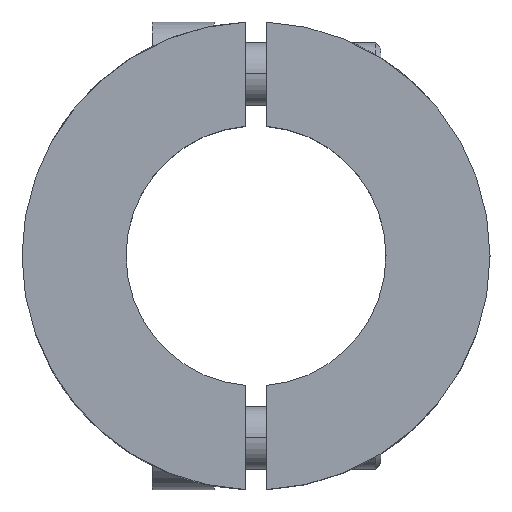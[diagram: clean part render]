
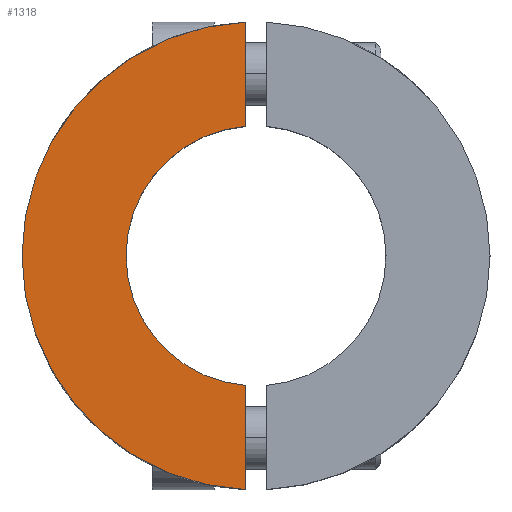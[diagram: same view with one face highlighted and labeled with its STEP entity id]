
A CAD part, top view. The second image highlights one B-rep face of the part: STEP entity #1318.
In plain terms, the highlighted planar face has unit normal (0, 0, 1).
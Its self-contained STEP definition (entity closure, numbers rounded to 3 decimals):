
#8 = CARTESIAN_POINT ( 'NONE',  ( -1., 12.46, 7.5 ) ) ;
#38 = DIRECTION ( 'NONE',  ( -0.044, 0.999, 0. ) ) ;
#232 = ORIENTED_EDGE ( 'NONE', *, *, #1712, .T. ) ;
#233 = CARTESIAN_POINT ( 'NONE',  ( 0., 0., 7.5 ) ) ;
#276 = DIRECTION ( 'NONE',  ( 0., 0., 1. ) ) ;
#296 = DIRECTION ( 'NONE',  ( -0.044, 0.999, 0. ) ) ;
#344 = ORIENTED_EDGE ( 'NONE', *, *, #2520, .T. ) ;
#592 = DIRECTION ( 'NONE',  ( 0., 1., 0. ) ) ;
#645 = VERTEX_POINT ( 'NONE', #2669 ) ;
#711 = AXIS2_PLACEMENT_3D ( 'NONE', #1453, #739, #296 ) ;
#739 = DIRECTION ( 'NONE',  ( 0., 0., 1. ) ) ;
#782 = CIRCLE ( 'NONE', #711, 22.5 ) ;
#819 = EDGE_CURVE ( 'NONE', #980, #1413, #1914, .T. ) ;
#858 = ORIENTED_EDGE ( 'NONE', *, *, #2576, .T. ) ;
#980 = VERTEX_POINT ( 'NONE', #1174 ) ;
#1023 = CARTESIAN_POINT ( 'NONE',  ( -1., 22.478, 7.5 ) ) ;
#1041 = VECTOR ( 'NONE', #2333, 1000. ) ;
#1174 = CARTESIAN_POINT ( 'NONE',  ( -1., 12.46, 7.5 ) ) ;
#1226 = ORIENTED_EDGE ( 'NONE', *, *, #1815, .T. ) ;
#1235 = DIRECTION ( 'NONE',  ( 0., 0., -1. ) ) ;
#1318 = ADVANCED_FACE ( 'NONE', ( #1376 ), #1873, .T. ) ;
#1376 = FACE_OUTER_BOUND ( 'NONE', #1628, .T. ) ;
#1413 = VERTEX_POINT ( 'NONE', #1023 ) ;
#1431 = VECTOR ( 'NONE', #592, 1000. ) ;
#1437 = CARTESIAN_POINT ( 'NONE',  ( 0., 0., 7.5 ) ) ;
#1453 = CARTESIAN_POINT ( 'NONE',  ( 0., 0., 7.5 ) ) ;
#1476 = CARTESIAN_POINT ( 'NONE',  ( 0., 0., 7.5 ) ) ;
#1482 = CIRCLE ( 'NONE', #2098, 22.5 ) ;
#1487 = LINE ( 'NONE', #2074, #1041 ) ;
#1550 = VERTEX_POINT ( 'NONE', #1744 ) ;
#1628 = EDGE_LOOP ( 'NONE', ( #232, #1226, #344, #858, #2461 ) ) ;
#1712 = EDGE_CURVE ( 'NONE', #1413, #1550, #1482, .T. ) ;
#1744 = CARTESIAN_POINT ( 'NONE',  ( -22.5, 0., 7.5 ) ) ;
#1815 = EDGE_CURVE ( 'NONE', #1550, #2371, #782, .T. ) ;
#1827 = CARTESIAN_POINT ( 'NONE',  ( -1., -22.478, 7.5 ) ) ;
#1873 = PLANE ( 'NONE',  #2867 ) ;
#1911 = DIRECTION ( 'NONE',  ( -0.08, -0.997, 0. ) ) ;
#1914 = LINE ( 'NONE', #8, #1431 ) ;
#2003 = CIRCLE ( 'NONE', #2180, 12.5 ) ;
#2074 = CARTESIAN_POINT ( 'NONE',  ( -1., -22.478, 7.5 ) ) ;
#2098 = AXIS2_PLACEMENT_3D ( 'NONE', #233, #276, #38 ) ;
#2180 = AXIS2_PLACEMENT_3D ( 'NONE', #1437, #1235, #1911 ) ;
#2333 = DIRECTION ( 'NONE',  ( 0., 1., 0. ) ) ;
#2368 = DIRECTION ( 'NONE',  ( 0., 0., 1. ) ) ;
#2371 = VERTEX_POINT ( 'NONE', #1827 ) ;
#2461 = ORIENTED_EDGE ( 'NONE', *, *, #819, .T. ) ;
#2520 = EDGE_CURVE ( 'NONE', #2371, #645, #1487, .T. ) ;
#2576 = EDGE_CURVE ( 'NONE', #645, #980, #2003, .T. ) ;
#2669 = CARTESIAN_POINT ( 'NONE',  ( -1., -12.46, 7.5 ) ) ;
#2809 = DIRECTION ( 'NONE',  ( 1., 0., 0. ) ) ;
#2867 = AXIS2_PLACEMENT_3D ( 'NONE', #1476, #2368, #2809 ) ;
